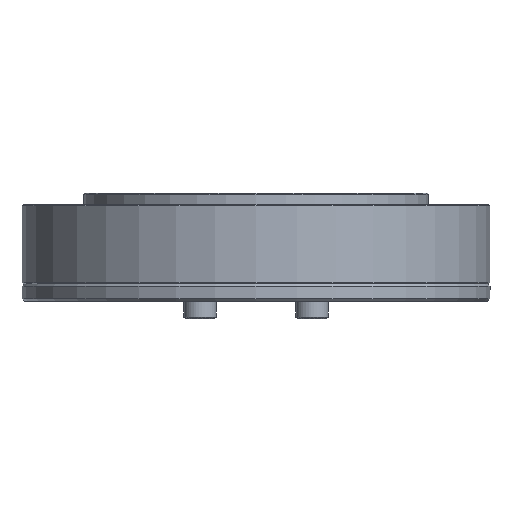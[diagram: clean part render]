
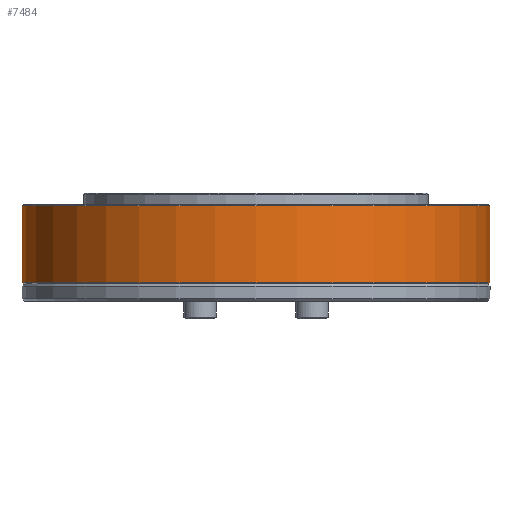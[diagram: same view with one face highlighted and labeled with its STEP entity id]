
A CAD part, front view. The second image highlights one B-rep face of the part: STEP entity #7484.
In plain terms, the highlighted cylindrical face has radius 40 mm (diameter 80 mm), a partial arc.
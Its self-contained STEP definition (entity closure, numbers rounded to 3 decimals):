
#88 = DIRECTION ( 'NONE',  ( 1., 0., 0. ) ) ;
#593 = CARTESIAN_POINT ( 'NONE',  ( 41.587, -5.622, 85.55 ) ) ;
#1246 = VERTEX_POINT ( 'NONE', #593 ) ;
#1437 = CARTESIAN_POINT ( 'NONE',  ( -38.413, -5.622, 72.45 ) ) ;
#1659 = ORIENTED_EDGE ( 'NONE', *, *, #4021, .T. ) ;
#1835 = DIRECTION ( 'NONE',  ( -1., 0., 0. ) ) ;
#2004 = DIRECTION ( 'NONE',  ( 0., 0., -1. ) ) ;
#2176 = ORIENTED_EDGE ( 'NONE', *, *, #4572, .T. ) ;
#2239 = VERTEX_POINT ( 'NONE', #1437 ) ;
#2263 = DIRECTION ( 'NONE',  ( 1., 0., 0. ) ) ;
#2292 = DIRECTION ( 'NONE',  ( 0., 0., 1. ) ) ;
#2333 = CARTESIAN_POINT ( 'NONE',  ( 1.587, -5.622, 72.45 ) ) ;
#2706 = CIRCLE ( 'NONE', #7910, 40. ) ;
#2878 = CARTESIAN_POINT ( 'NONE',  ( -38.413, -5.622, 85.75 ) ) ;
#3002 = DIRECTION ( 'NONE',  ( 0., 0., -1. ) ) ;
#3059 = CARTESIAN_POINT ( 'NONE',  ( 41.587, -5.622, 85.75 ) ) ;
#3852 = VERTEX_POINT ( 'NONE', #5190 ) ;
#4021 = EDGE_CURVE ( 'NONE', #1246, #7843, #4432, .T. ) ;
#4122 = EDGE_LOOP ( 'NONE', ( #4413, #1659, #6050, #2176 ) ) ;
#4261 = CARTESIAN_POINT ( 'NONE',  ( 1.587, -5.622, 85.55 ) ) ;
#4287 = DIRECTION ( 'NONE',  ( 0., 0., -1. ) ) ;
#4413 = ORIENTED_EDGE ( 'NONE', *, *, #7477, .F. ) ;
#4432 = CIRCLE ( 'NONE', #7796, 40. ) ;
#4572 = EDGE_CURVE ( 'NONE', #2239, #3852, #2706, .T. ) ;
#4987 = CARTESIAN_POINT ( 'NONE',  ( -38.413, -5.622, 85.55 ) ) ;
#5115 = FACE_OUTER_BOUND ( 'NONE', #4122, .T. ) ;
#5190 = CARTESIAN_POINT ( 'NONE',  ( 41.587, -5.622, 72.45 ) ) ;
#5415 = LINE ( 'NONE', #3059, #6751 ) ;
#5681 = LINE ( 'NONE', #2878, #5794 ) ;
#5794 = VECTOR ( 'NONE', #6399, 1000. ) ;
#6050 = ORIENTED_EDGE ( 'NONE', *, *, #7710, .T. ) ;
#6399 = DIRECTION ( 'NONE',  ( 0., 0., -1. ) ) ;
#6724 = CYLINDRICAL_SURFACE ( 'NONE', #6939, 40. ) ;
#6751 = VECTOR ( 'NONE', #2004, 1000. ) ;
#6939 = AXIS2_PLACEMENT_3D ( 'NONE', #7608, #3002, #1835 ) ;
#7477 = EDGE_CURVE ( 'NONE', #1246, #3852, #5415, .T. ) ;
#7484 = ADVANCED_FACE ( 'NONE', ( #5115 ), #6724, .T. ) ;
#7608 = CARTESIAN_POINT ( 'NONE',  ( 1.587, -5.622, 85.75 ) ) ;
#7710 = EDGE_CURVE ( 'NONE', #7843, #2239, #5681, .T. ) ;
#7796 = AXIS2_PLACEMENT_3D ( 'NONE', #4261, #4287, #88 ) ;
#7843 = VERTEX_POINT ( 'NONE', #4987 ) ;
#7910 = AXIS2_PLACEMENT_3D ( 'NONE', #2333, #2292, #2263 ) ;
